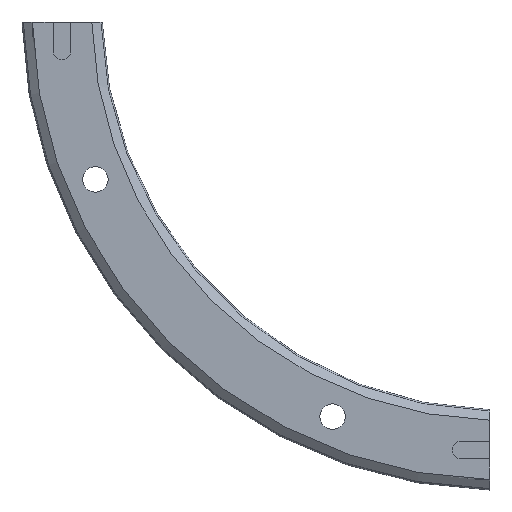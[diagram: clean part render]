
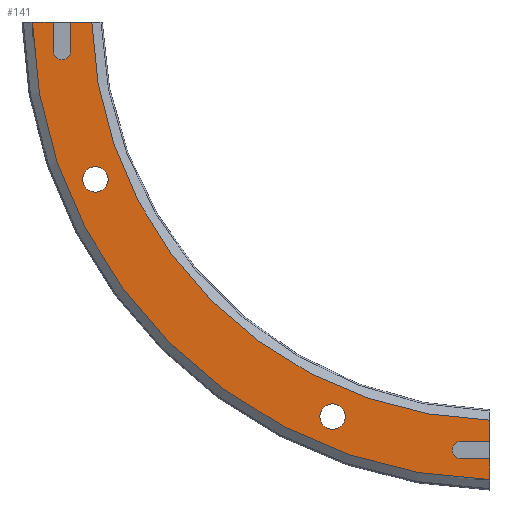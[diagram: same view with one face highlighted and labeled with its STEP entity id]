
A CAD part, front view. The second image highlights one B-rep face of the part: STEP entity #141.
In plain terms, the highlighted planar face has unit normal (0, -1, 0).
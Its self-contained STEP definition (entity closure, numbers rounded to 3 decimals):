
#141 = ADVANCED_FACE( '', ( #296, #297, #298 ), #299, .T. );
#296 = FACE_BOUND( '', #454, .T. );
#297 = FACE_BOUND( '', #455, .T. );
#298 = FACE_OUTER_BOUND( '', #456, .T. );
#299 = PLANE( '', #457 );
#454 = EDGE_LOOP( '', ( #960 ) );
#455 = EDGE_LOOP( '', ( #961 ) );
#456 = EDGE_LOOP( '', ( #962, #963, #964, #965, #966, #967, #968, #969, #970, #971, #972, #973 ) );
#457 = AXIS2_PLACEMENT_3D( '', #974, #975, #976 );
#960 = ORIENTED_EDGE( '', *, *, #1028, .F. );
#961 = ORIENTED_EDGE( '', *, *, #1032, .F. );
#962 = ORIENTED_EDGE( '', *, *, #1013, .T. );
#963 = ORIENTED_EDGE( '', *, *, #1018, .T. );
#964 = ORIENTED_EDGE( '', *, *, #1041, .T. );
#965 = ORIENTED_EDGE( '', *, *, #1037, .T. );
#966 = ORIENTED_EDGE( '', *, *, #986, .T. );
#967 = ORIENTED_EDGE( '', *, *, #1027, .T. );
#968 = ORIENTED_EDGE( '', *, *, #1025, .T. );
#969 = ORIENTED_EDGE( '', *, *, #1023, .T. );
#970 = ORIENTED_EDGE( '', *, *, #1002, .T. );
#971 = ORIENTED_EDGE( '', *, *, #1133, .F. );
#972 = ORIENTED_EDGE( '', *, *, #1042, .T. );
#973 = ORIENTED_EDGE( '', *, *, #1016, .T. );
#974 = CARTESIAN_POINT( '', ( -59.2, 0., 0. ) );
#975 = DIRECTION( '', ( 0., -1., 0. ) );
#976 = DIRECTION( '', ( 0., 0., -1. ) );
#986 = EDGE_CURVE( '', #1149, #1147, #1150, .T. );
#1002 = EDGE_CURVE( '', #1181, #1179, #1182, .T. );
#1013 = EDGE_CURVE( '', #1201, #1202, #1203, .T. );
#1016 = EDGE_CURVE( '', #1206, #1201, #1207, .T. );
#1018 = EDGE_CURVE( '', #1202, #1209, #1210, .T. );
#1023 = EDGE_CURVE( '', #1217, #1181, #1218, .T. );
#1025 = EDGE_CURVE( '', #1220, #1217, #1221, .T. );
#1027 = EDGE_CURVE( '', #1147, #1220, #1223, .T. );
#1028 = EDGE_CURVE( '', #1224, #1224, #1225, .T. );
#1032 = EDGE_CURVE( '', #1232, #1232, #1233, .T. );
#1037 = EDGE_CURVE( '', #1242, #1149, #1243, .T. );
#1041 = EDGE_CURVE( '', #1209, #1242, #1249, .T. );
#1042 = EDGE_CURVE( '', #1250, #1206, #1251, .T. );
#1133 = EDGE_CURVE( '', #1250, #1179, #1405, .T. );
#1147 = VERTEX_POINT( '', #1420 );
#1149 = VERTEX_POINT( '', #1423 );
#1150 = LINE( '', #1424, #1425 );
#1179 = VERTEX_POINT( '', #1490 );
#1181 = VERTEX_POINT( '', #1493 );
#1182 = LINE( '', #1494, #1495 );
#1201 = VERTEX_POINT( '', #1558 );
#1202 = VERTEX_POINT( '', #1559 );
#1203 = CIRCLE( '', #1560, 1.25 );
#1206 = VERTEX_POINT( '', #1565 );
#1207 = LINE( '', #1566, #1567 );
#1209 = VERTEX_POINT( '', #1570 );
#1210 = LINE( '', #1571, #1572 );
#1217 = VERTEX_POINT( '', #1582 );
#1218 = LINE( '', #1583, #1584 );
#1220 = VERTEX_POINT( '', #1587 );
#1221 = CIRCLE( '', #1588, 1.25 );
#1223 = LINE( '', #1591, #1592 );
#1224 = VERTEX_POINT( '', #1593 );
#1225 = CIRCLE( '', #1594, 1.85 );
#1232 = VERTEX_POINT( '', #1601 );
#1233 = CIRCLE( '', #1602, 1.85 );
#1242 = VERTEX_POINT( '', #1648 );
#1243 = CIRCLE( '', #1649, 67.8 );
#1249 = LINE( '', #1693, #1694 );
#1250 = VERTEX_POINT( '', #1695 );
#1251 = LINE( '', #1696, #1697 );
#1405 = CIRCLE( '', #1995, 59.2 );
#1420 = CARTESIAN_POINT( '', ( -1.5, 0., -64.75 ) );
#1423 = CARTESIAN_POINT( '', ( -1.5, 0., -67.783 ) );
#1424 = CARTESIAN_POINT( '', ( -1.5, 0., -69.685 ) );
#1425 = VECTOR( '', #2008, 1000. );
#1490 = CARTESIAN_POINT( '', ( -1.5, 0., -59.181 ) );
#1493 = CARTESIAN_POINT( '', ( -1.5, 0., -62.25 ) );
#1494 = CARTESIAN_POINT( '', ( -1.5, 0., -69.685 ) );
#1495 = VECTOR( '', #2018, 1000. );
#1558 = CARTESIAN_POINT( '', ( -62.25, 0., -5.75 ) );
#1559 = CARTESIAN_POINT( '', ( -64.75, 0., -5.75 ) );
#1560 = AXIS2_PLACEMENT_3D( '', #2035, #2036, #2037 );
#1565 = CARTESIAN_POINT( '', ( -62.25, 0., -1.5 ) );
#1566 = CARTESIAN_POINT( '', ( -62.25, 0., 0. ) );
#1567 = VECTOR( '', #2040, 1000. );
#1570 = CARTESIAN_POINT( '', ( -64.75, 0., -1.5 ) );
#1571 = CARTESIAN_POINT( '', ( -64.75, 0., -5.75 ) );
#1572 = VECTOR( '', #2042, 1000. );
#1582 = CARTESIAN_POINT( '', ( -5.75, 0., -62.25 ) );
#1583 = CARTESIAN_POINT( '', ( -5.75, 0., -62.25 ) );
#1584 = VECTOR( '', #2049, 1000. );
#1587 = CARTESIAN_POINT( '', ( -5.75, 0., -64.75 ) );
#1588 = AXIS2_PLACEMENT_3D( '', #2051, #2052, #2053 );
#1591 = CARTESIAN_POINT( '', ( 0., 0., -64.75 ) );
#1592 = VECTOR( '', #2055, 1000. );
#1593 = CARTESIAN_POINT( '', ( -58.666, 0., -26.15 ) );
#1594 = AXIS2_PLACEMENT_3D( '', #2056, #2057, #2058 );
#1601 = CARTESIAN_POINT( '', ( -24.3, 0., -60.516 ) );
#1602 = AXIS2_PLACEMENT_3D( '', #2068, #2069, #2070 );
#1648 = CARTESIAN_POINT( '', ( -67.783, 0., -1.5 ) );
#1649 = AXIS2_PLACEMENT_3D( '', #2080, #2081, #2082 );
#1693 = CARTESIAN_POINT( '', ( -1.5, 0., -1.5 ) );
#1694 = VECTOR( '', #2087, 1000. );
#1695 = CARTESIAN_POINT( '', ( -59.181, 0., -1.5 ) );
#1696 = CARTESIAN_POINT( '', ( -1.5, 0., -1.5 ) );
#1697 = VECTOR( '', #2088, 1000. );
#1995 = AXIS2_PLACEMENT_3D( '', #2181, #2182, #2183 );
#2008 = DIRECTION( '', ( 0., 0., 1. ) );
#2018 = DIRECTION( '', ( 0., 0., 1. ) );
#2035 = CARTESIAN_POINT( '', ( -63.5, 0., -5.75 ) );
#2036 = DIRECTION( '', ( 0., 1., 0. ) );
#2037 = DIRECTION( '', ( 1., 0., 0. ) );
#2040 = DIRECTION( '', ( 0., 0., -1. ) );
#2042 = DIRECTION( '', ( 0., 0., 1. ) );
#2049 = DIRECTION( '', ( 1., 0., 0. ) );
#2051 = CARTESIAN_POINT( '', ( -5.75, 0., -63.5 ) );
#2052 = DIRECTION( '', ( 0., 1., 0. ) );
#2053 = DIRECTION( '', ( 1., 0., 0. ) );
#2055 = DIRECTION( '', ( -1., 0., 0. ) );
#2056 = CARTESIAN_POINT( '', ( -58.666, 0., -24.3 ) );
#2057 = DIRECTION( '', ( 0., -1., 0. ) );
#2058 = DIRECTION( '', ( 0., 0., -1. ) );
#2068 = CARTESIAN_POINT( '', ( -24.3, 0., -58.666 ) );
#2069 = DIRECTION( '', ( 0., -1., 0. ) );
#2070 = DIRECTION( '', ( 0., 0., -1. ) );
#2080 = CARTESIAN_POINT( '', ( 0., 0., 0. ) );
#2081 = DIRECTION( '', ( 0., -1., 0. ) );
#2082 = DIRECTION( '', ( 0., 0., -1. ) );
#2087 = DIRECTION( '', ( -1., 0., 0. ) );
#2088 = DIRECTION( '', ( -1., 0., 0. ) );
#2181 = CARTESIAN_POINT( '', ( 0., 0., 0. ) );
#2182 = DIRECTION( '', ( 0., -1., 0. ) );
#2183 = DIRECTION( '', ( 0., 0., -1. ) );
